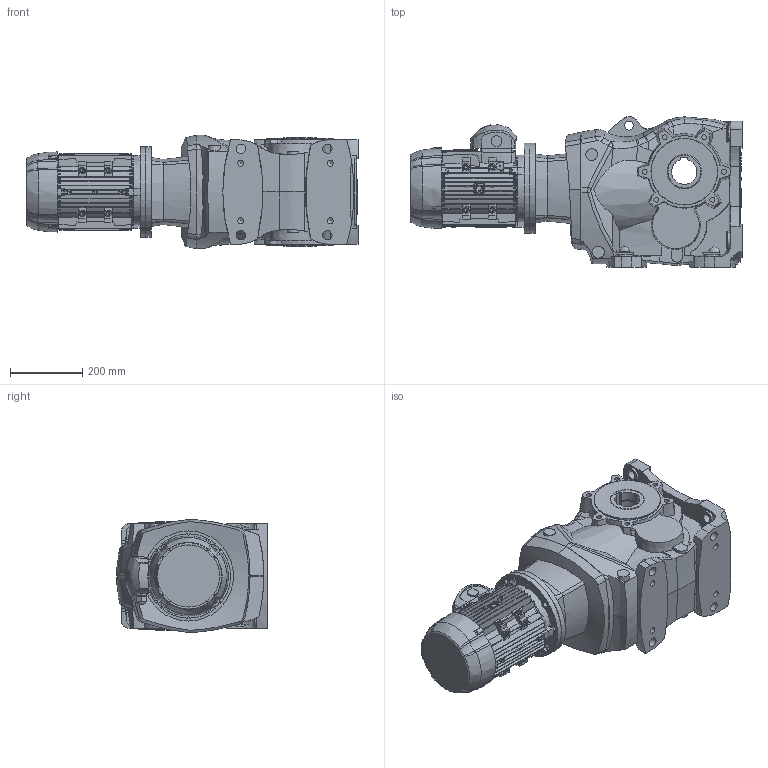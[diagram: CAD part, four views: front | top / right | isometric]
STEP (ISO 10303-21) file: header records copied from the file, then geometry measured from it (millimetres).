
FILE_DESCRIPTION((''),'2;1');
FILE_NAME('C:\xampp\htdocs\motive\source_step\enduro9.stp','2021-12-01T15:36:39',('apache'),(''),'Autodesk Inventor 2013','Autodesk Inventor 2013','');
FILE_SCHEMA(('CONFIG_CONTROL_DESIGN'));
Length unit declared in the file: millimetre
Products named in the file (12): enduro9; HOUEN9; ICVEN9; IFL100112EN9; OSHEN9; TCVEN9; M112; BODY112; B5112; SH112; TBOX_112; FCV112
Assembly tree (11 placements, depth 3):
  enduro9
    HOUEN9
    ICVEN9
    IFL100112EN9
    OSHEN9
    TCVEN9
    M112
      BODY112
      B5112
      SH112
      TBOX_112
      FCV112
Bounding box: 921.1 x 418.17 x 315.03 mm (x, y, z)
Volume: 49730382.4 mm3; surface area: 2728893.2 mm2
Topology: 11 solids, 11 shells, 2669 faces, 7384 edges, 4881 vertices
Faces by surface type: plane 966, bspline 721, cylinder 450, cone 404, torus 126, sphere 2
Full cylindrical faces by diameter (mm): 2.5 x4, 4.2 x13, 5.2 x2, 5.6 x2, 6 x3, 6.8 x1, 8 x6, 8.5 x13, 10 x3, 10.25 x4, 10.5 x1, 14 x12, 15 x4, 17.5 x4, 25 x2, 26 x8, 27.4 x1, 28 x1, 30 x3, 32 x1, 47 x1, 52 x2, 57 x1, 62 x2, 65 x1, 80 x1, 95 x2, 155 x2, 166 x1, 175 x1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
Entity records: 134566 total; most frequent: CARTESIAN_POINT 71341, ORIENTED_EDGE 14258, DIRECTION 11237, EDGE_CURVE 7129, VERTEX_POINT 4809, AXIS2_PLACEMENT_3D 4316, EDGE_LOOP 3068, FACE_OUTER_BOUND 2669
